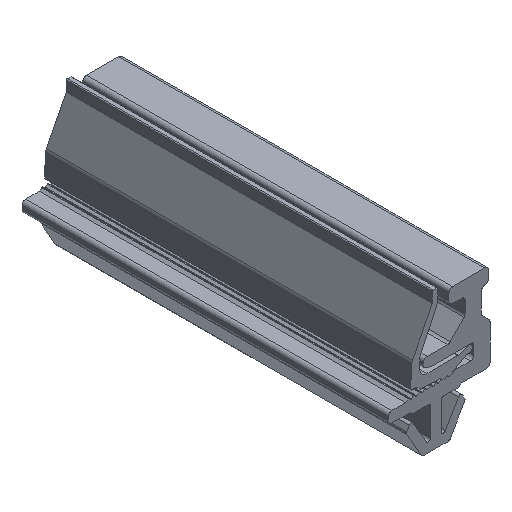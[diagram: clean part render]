
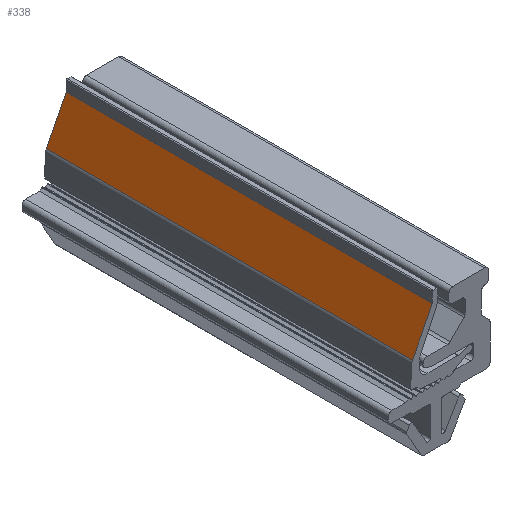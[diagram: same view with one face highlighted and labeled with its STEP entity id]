
A CAD part, isometric view. The second image highlights one B-rep face of the part: STEP entity #338.
In plain terms, the highlighted planar face has unit normal (-0.893, 0, 0.451).
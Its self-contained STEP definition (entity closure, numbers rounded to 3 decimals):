
#338=ADVANCED_FACE('',(#701),#702,.F.);
#701=FACE_OUTER_BOUND('',#1088,.T.);
#702=PLANE('',#1089);
#1088=EDGE_LOOP('',(#1939,#1940,#1941,#1942));
#1089=AXIS2_PLACEMENT_3D('',#1943,#1944,#1945);
#1939=ORIENTED_EDGE('',*,*,#2834,.T.);
#1940=ORIENTED_EDGE('',*,*,#2571,.F.);
#1941=ORIENTED_EDGE('',*,*,#2835,.F.);
#1942=ORIENTED_EDGE('',*,*,#2713,.T.);
#1943=CARTESIAN_POINT('',(-0.474,0.,11.375));
#1944=DIRECTION('',(0.893,0.0,-0.451));
#1945=DIRECTION('',(0.451,0.0,0.893));
#2571=EDGE_CURVE('',#3169,#3167,#3171,.T.);
#2713=EDGE_CURVE('',#3401,#3399,#3402,.T.);
#2834=EDGE_CURVE('',#3399,#3167,#3566,.T.);
#2835=EDGE_CURVE('',#3401,#3169,#3567,.T.);
#3167=VERTEX_POINT('',#3987);
#3169=VERTEX_POINT('',#3989);
#3171=LINE('',#3991,#3992);
#3399=VERTEX_POINT('',#4307);
#3401=VERTEX_POINT('',#4309);
#3402=LINE('',#4310,#4311);
#3566=LINE('',#4527,#4528);
#3567=LINE('',#4529,#4530);
#3987=CARTESIAN_POINT('',(-3.172,50.0,6.031));
#3989=CARTESIAN_POINT('',(-3.172,0.,6.031));
#3991=CARTESIAN_POINT('',(-3.172,0.,6.031));
#3992=VECTOR('',#4858,1.0);
#4307=CARTESIAN_POINT('',(-0.474,50.0,11.375));
#4309=CARTESIAN_POINT('',(-0.474,0.,11.375));
#4310=CARTESIAN_POINT('',(-0.474,0.,11.375));
#4311=VECTOR('',#5009,1.0);
#4527=CARTESIAN_POINT('',(-0.474,50.0,11.375));
#4528=VECTOR('',#5167,1.0);
#4529=CARTESIAN_POINT('',(-0.474,0.,11.375));
#4530=VECTOR('',#5168,1.0);
#4858=DIRECTION('',(0.0,1.0,0.0));
#5009=DIRECTION('',(0.0,1.0,0.0));
#5167=DIRECTION('',(-0.451,0.0,-0.893));
#5168=DIRECTION('',(-0.451,0.0,-0.893));
